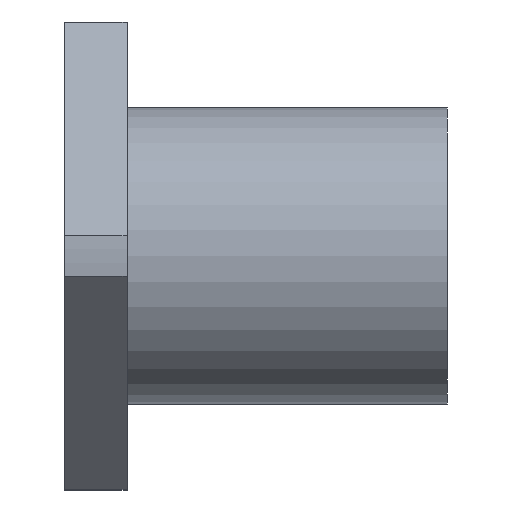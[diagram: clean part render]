
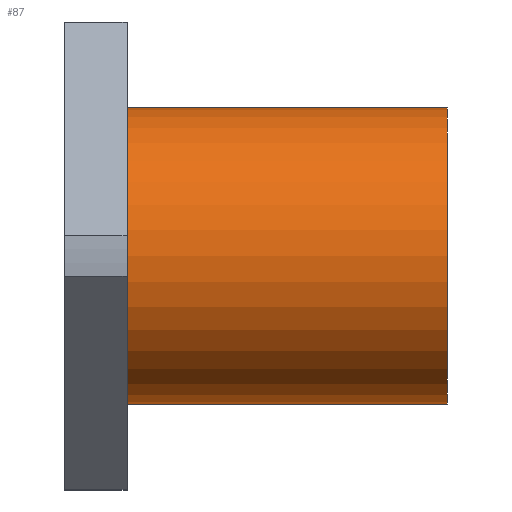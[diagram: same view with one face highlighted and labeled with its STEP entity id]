
A CAD part, front view. The second image highlights one B-rep face of the part: STEP entity #87.
In plain terms, the highlighted cylindrical face has radius 31 mm (diameter 62 mm), a full revolution.
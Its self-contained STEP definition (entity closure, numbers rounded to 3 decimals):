
#87 = ADVANCED_FACE( '', ( #138, #139 ), #140, .T. );
#138 = FACE_OUTER_BOUND( '', #213, .T. );
#139 = FACE_OUTER_BOUND( '', #214, .T. );
#140 = CYLINDRICAL_SURFACE( '', #215, 31. );
#213 = EDGE_LOOP( '', ( #347 ) );
#214 = EDGE_LOOP( '', ( #348 ) );
#215 = AXIS2_PLACEMENT_3D( '', #349, #350, #351 );
#347 = ORIENTED_EDGE( '', *, *, #438, .T. );
#348 = ORIENTED_EDGE( '', *, *, #450, .F. );
#349 = CARTESIAN_POINT( '', ( 80., 0., 0. ) );
#350 = DIRECTION( '', ( -1., 0., 0. ) );
#351 = DIRECTION( '', ( 0., 0., -1. ) );
#438 = EDGE_CURVE( '', #500, #500, #501, .T. );
#450 = EDGE_CURVE( '', #522, #522, #523, .T. );
#500 = VERTEX_POINT( '', #594 );
#501 = CIRCLE( '', #595, 31. );
#522 = VERTEX_POINT( '', #618 );
#523 = CIRCLE( '', #619, 31. );
#594 = CARTESIAN_POINT( '', ( 13., 0., -31. ) );
#595 = AXIS2_PLACEMENT_3D( '', #678, #679, #680 );
#618 = CARTESIAN_POINT( '', ( 80., 0., -31. ) );
#619 = AXIS2_PLACEMENT_3D( '', #710, #711, #712 );
#678 = CARTESIAN_POINT( '', ( 13., 0., 0. ) );
#679 = DIRECTION( '', ( 1., 0., 0. ) );
#680 = DIRECTION( '', ( 0., 0., -1. ) );
#710 = CARTESIAN_POINT( '', ( 80., 0., 0. ) );
#711 = DIRECTION( '', ( 1., 0., 0. ) );
#712 = DIRECTION( '', ( 0., 0., -1. ) );
